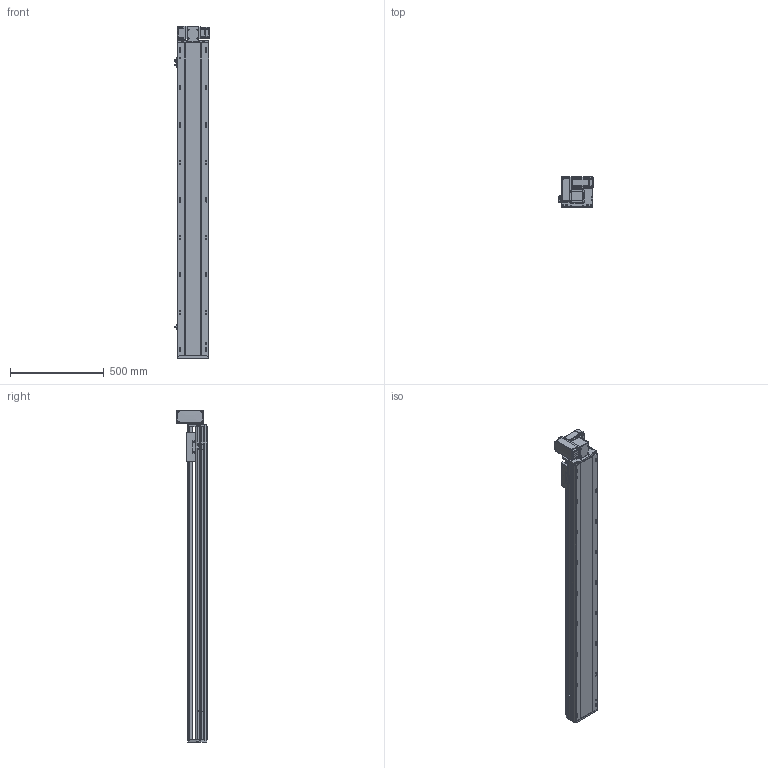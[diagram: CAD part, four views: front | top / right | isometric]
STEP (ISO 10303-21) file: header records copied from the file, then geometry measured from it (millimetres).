
FILE_DESCRIPTION (( 'STEP AP214' ), '1' );
FILE_NAME ('RTB17S-XX-1400-LW-M40-C4.STEP', '2025-12-11T07:07:14', ( '' ), ( '' ), 'SwSTEP 2.0', 'SolidWorks 2018', '' );
FILE_SCHEMA (( 'AUTOMOTIVE_DESIGN' ));
Length unit declared in the file: millimetre
Products named in the file (14): RTB17S-L-007奻裔^RTB17S-XX-XX-LW-M40-C4; RTB14-L-018P^RTB17S-LW-々湍釱蚾饜-400W_RTB17S-XX-XX-LW-M40-C4; RTB14-L-005P--轴承塑胶压盖^RTB17S-LW-皮带座装配-400W_RTB17S-XX-XX-LW-M40-C4; RTB17S-L-014-T20--々湍釱^RTB17S-LW-々湍釱蚾饜-400W_RTB17S-XX-XX-LW-M40-C4; 400W侜督萇儂^RTB17S-XX-XX-LW-M40-C4; RTH13-BL-012覜茼え俋离^RTB17S-XX-XX-LW-M40-C4; RTB17S-LW-々湍釱蚾饜-400W^RTB17S-XX-XX-LW-M40-C4; RTB17S-L-004佪裝蹟譫蟀諉釱^RTB17S-XX-XX-LW-M40-C4; RTB17-R-011菁釱^RTB17S-XX-XX-LW-M40-C4; RTB17S-L-001耜醱啣^RTB17S-XX-XX-LW-M40-C4; RTB17S-XX-1400-LW-M40-C4; RTB14-L-017P^RTB17S-LW-々湍釱蚾饜-400W_RTB17S-XX-XX-LW-M40-C4; RTB14-L-008-M20--萇儂啣^RTB17S-LW-々湍釱蚾饜-400W_RTB17S-XX-XX-LW-M40-C4; OMRON EE-SX672 传感器^RTB17S-XX-XX-LW-M40-C4
Assembly tree (16 placements, depth 3):
  RTB17S-XX-1400-LW-M40-C4
    RTB17-R-011菁釱^RTB17S-XX-XX-LW-M40-C4
    RTB17S-L-007奻裔^RTB17S-XX-XX-LW-M40-C4
    OMRON EE-SX672 传感器^RTB17S-XX-XX-LW-M40-C4  x3
    RTB17S-L-001耜醱啣^RTB17S-XX-XX-LW-M40-C4
    400W侜督萇儂^RTB17S-XX-XX-LW-M40-C4
    RTB17S-L-004佪裝蹟譫蟀諉釱^RTB17S-XX-XX-LW-M40-C4
    RTH13-BL-012覜茼え俋离^RTB17S-XX-XX-LW-M40-C4
    RTB17S-LW-々湍釱蚾饜-400W^RTB17S-XX-XX-LW-M40-C4
      RTB17S-L-014-T20--々湍釱^RTB17S-LW-々湍釱蚾饜-400W_RTB17S-XX-XX-LW-M40-C4
      RTB14-L-005P--轴承塑胶压盖^RTB17S-LW-皮带座装配-400W_RTB17S-XX-XX-LW-M40-C4
      RTB14-L-008-M20--萇儂啣^RTB17S-LW-々湍釱蚾饜-400W_RTB17S-XX-XX-LW-M40-C4
      RTB14-L-017P^RTB17S-LW-々湍釱蚾饜-400W_RTB17S-XX-XX-LW-M40-C4  x2
      RTB14-L-018P^RTB17S-LW-々湍釱蚾饜-400W_RTB17S-XX-XX-LW-M40-C4
Bounding box: 186 x 160.5 x 1772.5 mm (x, y, z)
Volume: 15638949.3 mm3; surface area: 1852882.1 mm2
Topology: 15 solids, 15 shells, 2237 faces, 6195 edges, 4041 vertices
Faces by surface type: plane 1072, cylinder 717, bspline 301, cone 139, torus 8
Entity records: 64169 total; most frequent: CARTESIAN_POINT 18000, ORIENTED_EDGE 9234, DIRECTION 8576, EDGE_CURVE 4617, VERTEX_POINT 3029, AXIS2_PLACEMENT_3D 2959, VECTOR 2658, LINE 2658
